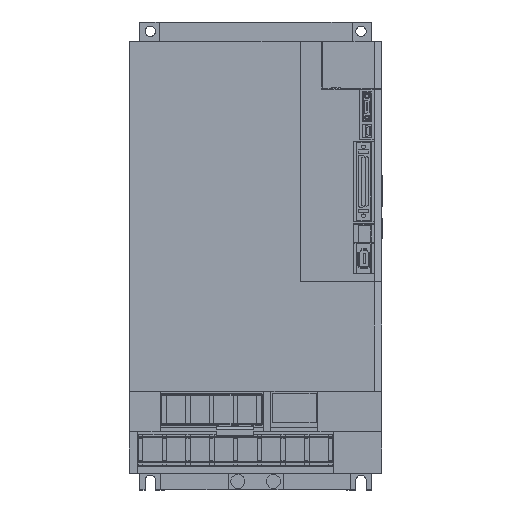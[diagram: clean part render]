
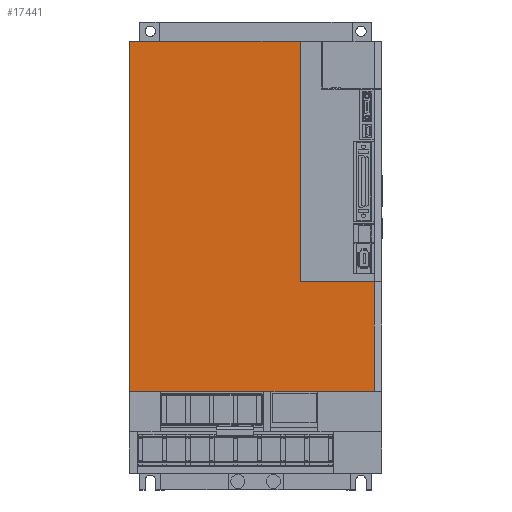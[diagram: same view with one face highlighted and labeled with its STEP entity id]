
A CAD part, top view. The second image highlights one B-rep face of the part: STEP entity #17441.
In plain terms, the highlighted planar face has unit normal (0, 0, 1).
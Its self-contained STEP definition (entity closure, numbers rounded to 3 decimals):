
#17173 = EDGE_CURVE ( 'NONE', #17174, #17175, #49384, .T. ) ;
#17174 = VERTEX_POINT ( 'NONE', #49380 ) ;
#17175 = VERTEX_POINT ( 'NONE', #49379 ) ;
#17394 = VERTEX_POINT ( 'NONE', #49793 ) ;
#17441 = ADVANCED_FACE ( 'NONE', ( #49848 ), #49847, .T. ) ;
#17442 = EDGE_LOOP ( 'NONE', ( #17443, #17447, #17450, #17452, #17453, #17454 ) ) ;
#17443 = ORIENTED_EDGE ( 'NONE', *, *, #17444, .F. ) ;
#17444 = EDGE_CURVE ( 'NONE', #17445, #17446, #49842, .T. ) ;
#17445 = VERTEX_POINT ( 'NONE', #49903 ) ;
#17446 = VERTEX_POINT ( 'NONE', #49902 ) ;
#17447 = ORIENTED_EDGE ( 'NONE', *, *, #17448, .F. ) ;
#17448 = EDGE_CURVE ( 'NONE', #17449, #17445, #49901, .T. ) ;
#17449 = VERTEX_POINT ( 'NONE', #49897 ) ;
#17450 = ORIENTED_EDGE ( 'NONE', *, *, #17451, .T. ) ;
#17451 = EDGE_CURVE ( 'NONE', #17449, #17174, #49896, .T. ) ;
#17452 = ORIENTED_EDGE ( 'NONE', *, *, #17173, .T. ) ;
#17453 = ORIENTED_EDGE ( 'NONE', *, *, #17457, .T. ) ;
#17454 = ORIENTED_EDGE ( 'NONE', *, *, #17455, .T. ) ;
#17455 = EDGE_CURVE ( 'NONE', #17394, #17446, #49892, .T. ) ;
#17457 = EDGE_CURVE ( 'NONE', #17175, #17394, #49888, .T. ) ;
#49379 = CARTESIAN_POINT ( 'NONE',  ( -14., -7., 210. ) ) ;
#49380 = CARTESIAN_POINT ( 'NONE',  ( 101., -7., 210. ) ) ;
#49381 = DIRECTION ( 'NONE',  ( -1., 0., 0. ) ) ;
#49382 = VECTOR ( 'NONE', #49381, 1000. ) ;
#49383 = CARTESIAN_POINT ( 'NONE',  ( 156., -7., 210. ) ) ;
#49384 = LINE ( 'NONE', #49383, #49382 ) ;
#49793 = CARTESIAN_POINT ( 'NONE',  ( -14., -243., 210. ) ) ;
#49838 = DIRECTION ( 'NONE',  ( 0., -1., 0. ) ) ;
#49840 = VECTOR ( 'NONE', #49838, 1000. ) ;
#49841 = CARTESIAN_POINT ( 'NONE',  ( 151., -163.415, 210. ) ) ;
#49842 = LINE ( 'NONE', #49841, #49840 ) ;
#49843 = DIRECTION ( 'NONE',  ( 1., 0., 0. ) ) ;
#49844 = DIRECTION ( 'NONE',  ( 0., 0., 1. ) ) ;
#49845 = CARTESIAN_POINT ( 'NONE',  ( 0., 0., 210. ) ) ;
#49846 = AXIS2_PLACEMENT_3D ( 'NONE', #49845, #49844, #49843 ) ;
#49847 = PLANE ( 'NONE',  #49846 ) ;
#49848 = FACE_OUTER_BOUND ( 'NONE', #17442, .T. ) ;
#49884 = DIRECTION ( 'NONE',  ( 0., -1., 0. ) ) ;
#49885 = VECTOR ( 'NONE', #49884, 1000. ) ;
#49887 = CARTESIAN_POINT ( 'NONE',  ( -14., -7., 210. ) ) ;
#49888 = LINE ( 'NONE', #49887, #49885 ) ;
#49889 = DIRECTION ( 'NONE',  ( 1., 0., 0. ) ) ;
#49890 = VECTOR ( 'NONE', #49889, 1000. ) ;
#49891 = CARTESIAN_POINT ( 'NONE',  ( -14., -243., 210. ) ) ;
#49892 = LINE ( 'NONE', #49891, #49890 ) ;
#49893 = DIRECTION ( 'NONE',  ( 0., 1., 0. ) ) ;
#49894 = VECTOR ( 'NONE', #49893, 1000. ) ;
#49895 = CARTESIAN_POINT ( 'NONE',  ( 101., -8., 210. ) ) ;
#49896 = LINE ( 'NONE', #49895, #49894 ) ;
#49897 = CARTESIAN_POINT ( 'NONE',  ( 101., -169., 210. ) ) ;
#49898 = DIRECTION ( 'NONE',  ( 1., 0., 0. ) ) ;
#49899 = VECTOR ( 'NONE', #49898, 1000. ) ;
#49900 = CARTESIAN_POINT ( 'NONE',  ( 155., -169., 210. ) ) ;
#49901 = LINE ( 'NONE', #49900, #49899 ) ;
#49902 = CARTESIAN_POINT ( 'NONE',  ( 151., -243., 210. ) ) ;
#49903 = CARTESIAN_POINT ( 'NONE',  ( 151., -169., 210. ) ) ;
